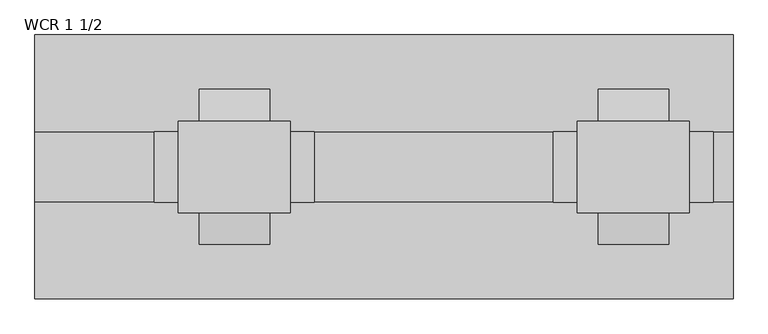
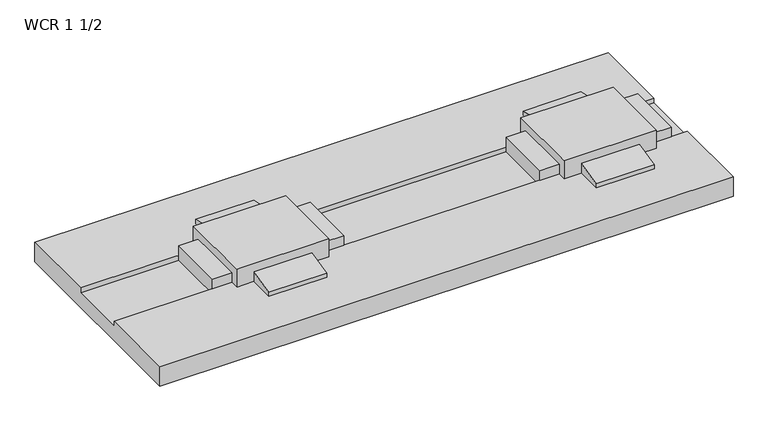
"""IFC4 building model written with IfcOpenShell, lengths in millimetres: proxy geometry, Duct-Walkercell-Wiremold : WCR 1 1/2."""

from ifc_helpers import new_model, si_unit, frame, origin, place, context, project, spatial, polyline, outline, extrude, faceted_brep, source, transform, mapped, element, save


def wcr_1_1_2_4a1126fe(model_context):
    return source(origin(), model_context, "Body", "SolidModel", [
        faceted_brep([(828.675, 69.85, 34.925), (828.675, -69.85, 34.925), (1000.125, -69.85, 34.925), (1000.125, 69.85, 34.925), (792.1625, -53.975, -9.525), (792.1625, 53.975, -9.525), (1036.6375, 53.975, -9.525), (1036.6375, -53.975, -9.525), (1000.125, 53.975, 0.0), (828.675, 53.975, 0.0), (828.675, 69.85, 0.0), (860.425, 69.85, 0.0), (860.425, 118.2751, 0.0), (968.375, 118.2751, 0.0), (968.375, 69.85, 0.0), (1000.125, 69.85, 0.0), (1000.125, 53.975, 19.05), (1036.6375, 53.975, 19.05), (792.1625, 53.975, 19.05), (828.675, 53.975, 19.05), (828.675, -53.975, 0.0), (1000.125, -53.975, 0.0), (1000.125, -69.85, 0.0), (968.375, -69.85, 0.0), (968.375, -118.2751, 0.0), (860.425, -118.2751, 0.0), (860.425, -69.85, 0.0), (828.675, -69.85, 0.0), (828.675, -53.975, 19.05), (792.1625, -53.975, 19.05), (1036.6375, -53.975, 19.05), (1000.125, -53.975, 19.05), (860.425, -69.85, 19.05), (968.375, -69.85, 19.05), (968.375, 69.85, 19.05), (860.425, 69.85, 19.05), (968.375, 118.2751, 7.9375), (968.375, -118.2751, 7.9375), (860.425, 118.2751, 7.9375), (860.425, -118.2751, 7.9375)], [[[0, 1, 2, 3]], [[4, 5, 6, 7]], [[8, 9, 10, 11, 12, 13, 14, 15]], [[9, 8, 16, 17, 6, 5, 18, 19]], [[20, 21, 22, 23, 24, 25, 26, 27]], [[21, 20, 28, 29, 4, 7, 30, 31]], [[1, 0, 10, 9, 19, 28, 20, 27]], [[2, 1, 27, 26, 32, 33, 23, 22]], [[3, 2, 22, 21, 31, 16, 8, 15]], [[0, 3, 15, 14, 34, 35, 11, 10]], [[31, 30, 17, 16]], [[18, 29, 28, 19]], [[29, 18, 5, 4]], [[17, 30, 7, 6]], [[36, 34, 14, 13]], [[37, 24, 23, 33]], [[38, 12, 11, 35]], [[39, 32, 26, 25]], [[34, 36, 38, 35]], [[36, 13, 12, 38]], [[24, 37, 39, 25]], [[37, 33, 32, 39]]]),
        faceted_brep([(219.075, 69.85, 34.925), (219.075, -69.85, 34.925), (390.525, -69.85, 34.925), (390.525, 69.85, 34.925), (182.5625, -53.975, -9.525), (182.5625, 53.975, -9.525), (427.0375, 53.975, -9.525), (427.0375, -53.975, -9.525), (390.525, 53.975, 0.0), (219.075, 53.975, 0.0), (219.075, 69.85, 0.0), (250.825, 69.85, 0.0), (250.825, 118.2751, 0.0), (358.775, 118.2751, 0.0), (358.775, 69.85, 0.0), (390.525, 69.85, 0.0), (390.525, 53.975, 19.05), (427.0375, 53.975, 19.05), (182.5625, 53.975, 19.05), (219.075, 53.975, 19.05), (219.075, -53.975, 0.0), (390.525, -53.975, 0.0), (390.525, -69.85, 0.0), (358.775, -69.85, 0.0), (358.775, -118.2751, 0.0), (250.825, -118.2751, 0.0), (250.825, -69.85, 0.0), (219.075, -69.85, 0.0), (219.075, -53.975, 19.05), (182.5625, -53.975, 19.05), (427.0375, -53.975, 19.05), (390.525, -53.975, 19.05), (250.825, -69.85, 19.05), (358.775, -69.85, 19.05), (358.775, 69.85, 19.05), (250.825, 69.85, 19.05), (358.775, 118.2751, 7.9375), (358.775, -118.2751, 7.9375), (250.825, 118.2751, 7.9375), (250.825, -118.2751, 7.9375)], [[[0, 1, 2, 3]], [[4, 5, 6, 7]], [[8, 9, 10, 11, 12, 13, 14, 15]], [[9, 8, 16, 17, 6, 5, 18, 19]], [[20, 21, 22, 23, 24, 25, 26, 27]], [[21, 20, 28, 29, 4, 7, 30, 31]], [[1, 0, 10, 9, 19, 28, 20, 27]], [[2, 1, 27, 26, 32, 33, 23, 22]], [[3, 2, 22, 21, 31, 16, 8, 15]], [[0, 3, 15, 14, 34, 35, 11, 10]], [[31, 30, 17, 16]], [[18, 29, 28, 19]], [[29, 18, 5, 4]], [[17, 30, 7, 6]], [[36, 34, 14, 13]], [[37, 24, 23, 33]], [[38, 12, 11, 35]], [[39, 32, 26, 25]], [[34, 36, 38, 35]], [[36, 13, 12, 38]], [[24, 37, 39, 25]], [[37, 33, 32, 39]]]),
        extrude(outline(polyline([(-53.975, 0.0), (-53.975, -9.525), (53.975, -9.525), (53.975, 0.0), (201.6125, 0.0), (201.6125, -38.1), (-201.6125, -38.1), (-201.6125, 0.0), (-53.975, 0.0)])), frame((0.0, 0.0, 0.0), z_axis=(1.0, 0.0, 0.0), x_axis=(0.0, 1.0, 0.0)), (0.0, 0.0, 1.0), 1066.8),
    ])


if __name__ == "__main__":
    model = new_model("IFC4")
    model_context = context("Model", 3, world=origin())
    ifc_project = project(units=[si_unit("LENGTHUNIT", "METRE", prefix="MILLI")], contexts=[model_context])
    site = spatial("IfcSite", under=ifc_project)
    building = spatial("IfcBuilding", under=site)
    placement = place(None, origin())
    wcr_1_1_2_shape = wcr_1_1_2_4a1126fe(model_context)
    element("IfcBuildingElementProxy", 1, Name="Duct-Walkercell-Wiremold : WCR 1 1/2", ObjectType="Duct-Walkercell-Wiremold : WCR 1 1/2", at=placement, inside=building, context=model_context, shape_type="MappedRepresentation", body=[
        mapped(wcr_1_1_2_shape, transform((0.0, 0.0, 0.0), x_axis=(1.0, 0.0, 0.0), y_axis=(0.0, 1.0, 0.0), z_axis=(0.0, 0.0, 1.0))),
    ])
    save(model, "model.ifc")
